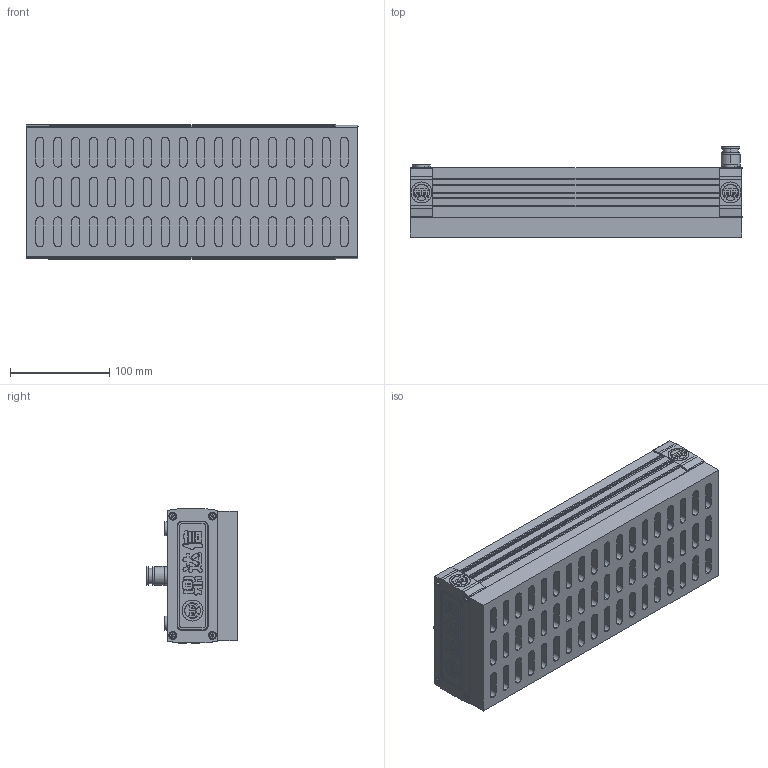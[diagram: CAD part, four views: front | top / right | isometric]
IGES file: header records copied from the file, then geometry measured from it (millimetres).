
Start section: SolidWorks IGES file using analytic representation for surfaces
Bounding box: 334 x 91.2 x 135 mm (x, y, z)
Surface area: 382777.2 mm2 (no closed solid volume)
Topology: 0 solids, 0 shells, 1737 faces, 22862 edges, 22846 vertices
Faces by surface type: bspline 1137, revolution 600
